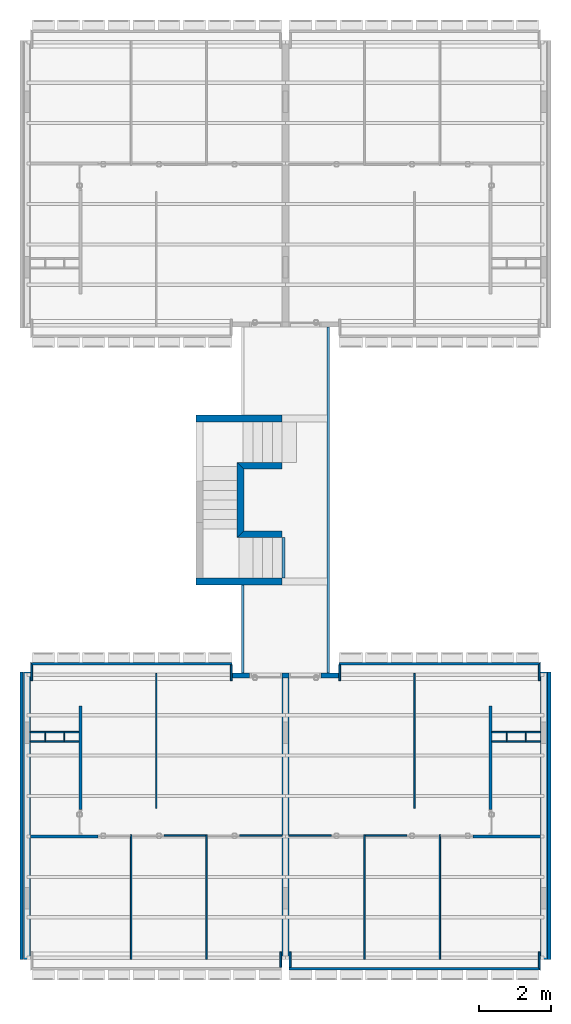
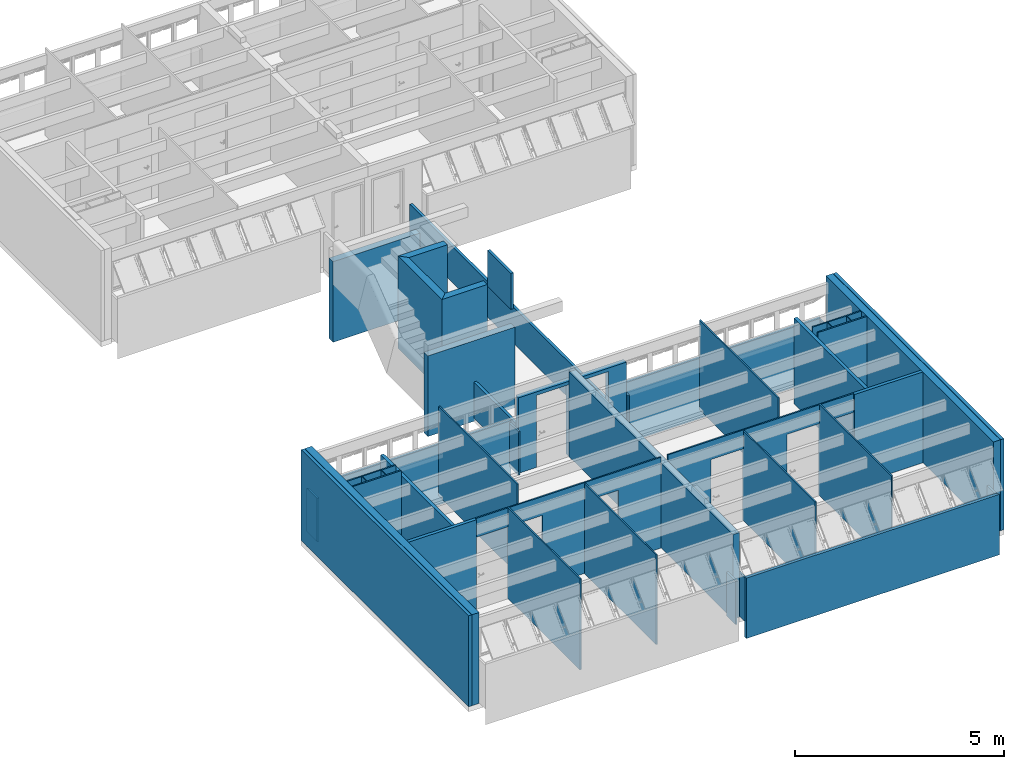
# One storey, part 2 of 22: 45 walls, 10 openings.
"""IFC2X3 building model written with IfcOpenShell, lengths in millimetres."""

from ifc_helpers import new_model, si_unit, direction, frame, frame_2d, origin_with_axes, origin_2d_with_axis, place, context, subcontext, project, spatial, polyline, rectangle, outline, extrude, material, layer, layer_set, layer_usage, type_object, element, save


model = new_model("IFC2X3")

# Units and contexts
model_context = context("Model", 3, precision=1e-05, world=origin_with_axes(), true_north=direction((0.0, 1.0)))
body_context = subcontext(model_context, "Body", "Model", "MODEL_VIEW")
ifc_project = project(units=[si_unit("LENGTHUNIT", "METRE", prefix="MILLI"), si_unit("AREAUNIT", "SQUARE_METRE"), si_unit("VOLUMEUNIT", "CUBIC_METRE"), si_unit("PLANEANGLEUNIT", "RADIAN"), si_unit("TIMEUNIT", "SECOND"), si_unit("MASSUNIT", "GRAM")], contexts=[model_context])

# Site, building, storey
site_placement = place(None, origin_with_axes())
site = spatial("IfcSite", under=ifc_project, at=site_placement, Name="Site", CompositionType="ELEMENT")
building_placement = place(site_placement, origin_with_axes())
building = spatial("IfcBuilding", under=site, at=building_placement, Name="Construção", CompositionType="COMPLEX")
storey_placement = place(building_placement, frame((0.0, 0.0, 2650.0), z_axis=(0.0, 0.0, 1.0), x_axis=(1.0, 0.0, 0.0)))
storey = spatial("IfcBuildingStorey", under=building, at=storey_placement, Name="Segundo Pavimento", CompositionType="COMPLEX", Elevation=2650.0)

# Walls
ifc_material_1 = material(Name="GENÉRICO - VEDAÇÃO EXTERNA")
ifc_layer_1 = layer(ifc_material_1, 190.0)
ifc_layer_set_1 = layer_set([ifc_layer_1], Name="GENÉRICO - VEDAÇÃO EXTERNA 190")
ifc_layer_usage_1 = layer_usage(ifc_layer_set_1, "AXIS2", "POSITIVE", 0.0)
wall_type_1 = type_object("IfcWallType", Name="GENÉRICO - VEDAÇÃO EXTERNA 190", PredefinedType="STANDARD", material=ifc_layer_set_1)
wall_1_placement = place(storey_placement, frame((7290.0, 15440.0, -150.0), z_axis=(0.0, 0.0, 1.0), x_axis=(-1.0, 0.0, 0.0)))
element("IfcWallStandardCase", 1, at=wall_1_placement, inside=storey, type_object=wall_type_1, material=ifc_layer_usage_1, Name="CIRC2-PAREDE-020", context=body_context, shape_type="SweptSolid", body=[
    extrude(rectangle(XDim=2400.0, YDim=190.0, at=frame_2d((0.0, 0.0), x_axis=(-1.0, 0.0))), frame((1200.0, 95.0, 0.0), z_axis=(0.0, 0.0, 1.0), x_axis=(1.0, 0.0, 0.0)), (0.0, 0.0, 1.0), 2350.0),
])
ifc_layer_usage_2 = layer_usage(ifc_layer_set_1, "AXIS2", "POSITIVE", 0.0)
wall_2_placement = place(storey_placement, frame((7480.0, 300.0, 0.0), z_axis=(0.0, 0.0, 1.0), x_axis=(0.0, 1.0, 0.0)))
element("IfcWallStandardCase", 2, at=wall_2_placement, inside=storey, type_object=wall_type_1, material=ifc_layer_usage_2, Name="CIRC2-PAREDE-026", context=body_context, shape_type="SweptSolid", body=[
    extrude(rectangle(XDim=7825.0, YDim=190.0, at=origin_2d_with_axis()), frame((3912.5, 95.0, 0.0), z_axis=(0.0, 0.0, 1.0), x_axis=(1.0, 0.0, 0.0)), (0.0, 0.0, 1.0), 2470.0),
])
ifc_layer_usage_3 = layer_usage(ifc_layer_set_1, "AXIS2", "POSITIVE", 0.0)
wall_3_placement = place(storey_placement, frame((7290.0, 10910.0, -150.0), z_axis=(0.0, 0.0, 1.0), x_axis=(-1.0, 0.0, 0.0)))
element("IfcWallStandardCase", 3, at=wall_3_placement, inside=storey, type_object=wall_type_1, material=ifc_layer_usage_3, Name="CIRC2-PAREDE-021", context=body_context, shape_type="SweptSolid", body=[
    extrude(rectangle(XDim=2400.0, YDim=190.0, at=frame_2d((0.0, 0.0), x_axis=(-1.0, 0.0))), frame((1200.0, 95.0, 0.0), z_axis=(0.0, 0.0, 1.0), x_axis=(1.0, 0.0, 0.0)), (0.0, 0.0, 1.0), 2350.0),
])
ifc_layer_usage_4 = layer_usage(ifc_layer_set_1, "AXIS2", "POSITIVE", 0.0)
wall_4_placement = place(storey_placement, frame((290.0, 300.0, 0.0), z_axis=(0.0, 0.0, 1.0), x_axis=(0.0, 1.0, 0.0)))
element("IfcWallStandardCase", 4, at=wall_4_placement, inside=storey, type_object=wall_type_1, material=ifc_layer_usage_4, Name="APTO5-PAREDE-013", context=body_context, shape_type="SweptSolid", body=[
    extrude(rectangle(XDim=8000.0, YDim=190.0, at=origin_2d_with_axis()), frame((4000.0, 95.0, 0.0), z_axis=(0.0, 0.0, 1.0), x_axis=(1.0, 0.0, 0.0)), (0.0, 0.0, 1.0), 2650.0),
])
ifc_layer_usage_5 = layer_usage(ifc_layer_set_1, "AXIS2", "POSITIVE", 0.0)
wall_5_placement = place(storey_placement, frame((14480.0, 8300.0, 0.0), z_axis=(0.0, 0.0, 1.0), x_axis=(0.0, -1.0, 0.0)))
element("IfcWallStandardCase", 5, at=wall_5_placement, inside=storey, type_object=wall_type_1, material=ifc_layer_usage_5, Name="APTO6-PAREDE-013", context=body_context, shape_type="SweptSolid", body=[
    extrude(rectangle(XDim=8000.0, YDim=190.0, at=frame_2d((0.0, 0.0), x_axis=(-1.0, 0.0))), frame((4000.0, 95.0, 0.0), z_axis=(0.0, 0.0, 1.0), x_axis=(1.0, 0.0, 0.0)), (0.0, 0.0, 1.0), 2650.0),
])
ifc_layer_2 = layer(ifc_material_1, 20.0)
ifc_layer_set_2 = layer_set([ifc_layer_2], Name="GENÉRICO - VEDAÇÃO EXTERNA 20")
ifc_layer_usage_6 = layer_usage(ifc_layer_set_2, "AXIS2", "POSITIVE", 0.0)
wall_type_2 = type_object("IfcWallType", Name="GENÉRICO - VEDAÇÃO EXTERNA 20", PredefinedType="STANDARD", material=ifc_layer_set_2)
wall_6_placement = place(storey_placement, frame((690.0, 6605.0, 0.0), z_axis=(0.0, 0.0, 1.0), x_axis=(0.0, -1.0, 0.0)))
element("IfcWallStandardCase", 6, at=wall_6_placement, inside=storey, type_object=wall_type_2, material=ifc_layer_usage_6, Name="APTO5-PAREDE-009", context=body_context, shape_type="SweptSolid", body=[
    extrude(rectangle(XDim=220.0, YDim=20.0, at=frame_2d((0.0, 0.0), x_axis=(-1.0, 0.0))), frame((110.0, 10.0, 0.0), z_axis=(0.0, 0.0, 1.0), x_axis=(1.0, 0.0, 0.0)), (0.0, 0.0, 1.0), 2650.0),
])
ifc_layer_usage_7 = layer_usage(ifc_layer_set_2, "AXIS2", "POSITIVE", 0.0)
wall_7_placement = place(storey_placement, frame((1240.0, 6385.0, 0.0), z_axis=(0.0, 0.0, 1.0), x_axis=(0.0, 1.0, 0.0)))
element("IfcWallStandardCase", 7, at=wall_7_placement, inside=storey, type_object=wall_type_2, material=ifc_layer_usage_7, Name="APTO5-PAREDE-008", context=body_context, shape_type="SweptSolid", body=[
    extrude(rectangle(XDim=220.0, YDim=20.0, at=origin_2d_with_axis()), frame((110.0, 10.0, 0.0), z_axis=(0.0, 0.0, 1.0), x_axis=(1.0, 0.0, 0.0)), (0.0, 0.0, 1.0), 2650.0),
])
ifc_layer_usage_8 = layer_usage(ifc_layer_set_2, "AXIS2", "POSITIVE", 0.0)
wall_8_placement = place(storey_placement, frame((14080.0, 6385.0, 0.0), z_axis=(0.0, 0.0, 1.0), x_axis=(0.0, 1.0, 0.0)))
element("IfcWallStandardCase", 8, at=wall_8_placement, inside=storey, type_object=wall_type_2, material=ifc_layer_usage_8, Name="APTO6-PAREDE-009", context=body_context, shape_type="SweptSolid", body=[
    extrude(rectangle(XDim=220.0, YDim=20.0, at=origin_2d_with_axis()), frame((110.0, 10.0, 0.0), z_axis=(0.0, 0.0, 1.0), x_axis=(1.0, 0.0, 0.0)), (0.0, 0.0, 1.0), 2650.0),
])
ifc_layer_usage_9 = layer_usage(ifc_layer_set_2, "AXIS2", "POSITIVE", 0.0)
wall_9_placement = place(storey_placement, frame((13530.0, 6605.0, 0.0), z_axis=(0.0, 0.0, 1.0), x_axis=(0.0, -1.0, 0.0)))
element("IfcWallStandardCase", 9, at=wall_9_placement, inside=storey, type_object=wall_type_2, material=ifc_layer_usage_9, Name="APTO6-PAREDE-008", context=body_context, shape_type="SweptSolid", body=[
    extrude(rectangle(XDim=220.0, YDim=20.0, at=frame_2d((0.0, 0.0), x_axis=(-1.0, 0.0))), frame((110.0, 10.0, 0.0), z_axis=(0.0, 0.0, 1.0), x_axis=(1.0, 0.0, 0.0)), (0.0, 0.0, 1.0), 2650.0),
])
ifc_layer_3 = layer(ifc_material_1, 75.0)
ifc_layer_set_3 = layer_set([ifc_layer_3], Name="GENÉRICO - VEDAÇÃO EXTERNA 75")
ifc_layer_usage_10 = layer_usage(ifc_layer_set_3, "AXIS2", "POSITIVE", 0.0)
wall_type_3 = type_object("IfcWallType", Name="GENÉRICO - VEDAÇÃO EXTERNA 75", PredefinedType="STANDARD", material=ifc_layer_set_3)
wall_10_placement = place(storey_placement, frame((7290.00006035, 12030.0, 2600.0), z_axis=(0.0, 0.0, 1.0), x_axis=(0.0, -1.0, 0.0)))
element("IfcWallStandardCase", 10, at=wall_10_placement, inside=storey, type_object=wall_type_3, material=ifc_layer_usage_10, Name="PAREDE-040", context=body_context, shape_type="SweptSolid", body=[
    extrude(rectangle(XDim=1120.0, YDim=75.0, at=frame_2d((0.0, 0.0), x_axis=(-1.0, 0.0))), frame((560.0, 37.5, 0.0), z_axis=(0.0, 0.0, 1.0), x_axis=(1.0, 0.0, 0.0)), (0.0, 0.0, 1.0), 1050.0),
])
ifc_layer_usage_11 = layer_usage(ifc_layer_set_3, "AXIS2", "POSITIVE", 0.0)
wall_11_placement = place(storey_placement, frame((8610.0, 8264.999998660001, -50.0), z_axis=(0.0, 0.0, 1.0), x_axis=(0.0, 1.0, 0.0)))
element("IfcWallStandardCase", 11, at=wall_11_placement, inside=storey, type_object=wall_type_3, material=ifc_layer_usage_11, Name="CIRC2-PAREDE-027", context=body_context, shape_type="SweptSolid", body=[
    extrude(rectangle(XDim=9630.00000134, YDim=75.0, at=origin_2d_with_axis()), frame((4815.000000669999, 37.5, 0.0), z_axis=(0.0, 0.0, 1.0), x_axis=(1.0, 0.0, 0.0)), (0.0, 0.0, 1.0), 1050.0),
])
ifc_layer_usage_12 = layer_usage(ifc_layer_set_3, "AXIS2", "POSITIVE", 0.0)
wall_12_placement = place(storey_placement, frame((6160.0, 10720.0, -50.0), z_axis=(0.0, 0.0, 1.0), x_axis=(0.0, -1.0, 0.0)))
element("IfcWallStandardCase", 12, at=wall_12_placement, inside=storey, type_object=wall_type_3, material=ifc_layer_usage_12, Name="CIRC2-PAREDE-025", context=body_context, shape_type="SweptSolid", body=[
    extrude(rectangle(XDim=2455.0, YDim=75.0, at=frame_2d((0.0, 0.0), x_axis=(-1.0, 0.0))), frame((1227.5, 37.5, 0.0), z_axis=(0.0, 0.0, 1.0), x_axis=(1.0, 0.0, 0.0)), (0.0, 0.0, 1.0), 1050.0),
])

# Wall, openings
ifc_layer_4 = layer(ifc_material_1, 40.0)
ifc_layer_set_4 = layer_set([ifc_layer_4], Name="GENÉRICO - VEDAÇÃO EXTERNA 40")
ifc_layer_usage_13 = layer_usage(ifc_layer_set_4, "AXIS2", "POSITIVE", 0.0)
wall_type_4 = type_object("IfcWallType", Name="GENÉRICO - VEDAÇÃO EXTERNA 40", PredefinedType="STANDARD", material=ifc_layer_set_4)
wall_13_placement = place(storey_placement, frame((7290.000000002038, 3765.000000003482, 0.0), z_axis=(0.0, 0.0, 1.0), x_axis=(-0.9999999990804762, 4.288412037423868e-05, 0.0)))
wall_13 = element("IfcWallStandardCase", 13, at=wall_13_placement, inside=storey, type_object=wall_type_4, material=ifc_layer_usage_13, Name="APTO5-PAREDE-006", context=body_context, shape_type="SweptSolid", body=[
    extrude(outline(polyline([(-2559.999787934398, 20.0), (2559.999359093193, 20.0), (2560.000216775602, -20.0), (-2559.999787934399, -20.0), (-2559.999787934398, 20.0)])), frame((2559.999787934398, 20.0, 0.0), z_axis=(0.0, 0.0, 1.0), x_axis=(1.0, 0.0, 0.0)), (0.0, 0.0, 1.0), 2650.0),
])
opening_1_placement = place(wall_13_placement, frame((4179.999999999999, 40.0, 0.0), z_axis=(0.0, 0.0, 1.0), x_axis=(-1.0, 0.0, 0.0)))
element("IfcOpeningElement", 14, at=opening_1_placement, cuts=wall_13, ObjectType="Opening", context=body_context, shape_type="SweptSolid", body=[
    extrude(outline(polyline([(-450.0, -1050.0), (-450.0, 1050.0), (450.0, 1050.0), (450.0, -1050.0), (-450.0, -1050.0)])), frame((450.0, 1.364242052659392e-12, 1050.000000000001), z_axis=(0.0, 1.0, 0.0), x_axis=(1.0, 0.0, 0.0)), (0.0, 0.0, 1.0), 120.0),
])
opening_2_placement = place(wall_13_placement, frame((5119.999147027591, 40.0, 0.0), z_axis=(0.0, 0.0, 1.0), x_axis=(-1.0, 0.0, 0.0)))
element("IfcOpeningElement", 15, at=opening_2_placement, cuts=wall_13, ObjectType="Opening", context=body_context, shape_type="SweptSolid", body=[
    extrude(outline(polyline([(450.0, 1050.0), (450.0, -1050.0), (-450.0, -1050.0), (-450.0, 1050.0), (450.0, 1050.0)])), frame((449.9991470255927, 0.0, 1050.0), z_axis=(0.0, 1.0, 0.0), x_axis=(1.0, 0.0, 0.0)), (0.0, 0.0, 1.0), 120.0),
])
opening_3_placement = place(wall_13_placement, frame((2080.0, 39.99999999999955, 0.0), z_axis=(0.0, 0.0, 1.0), x_axis=(-1.0, 0.0, 0.0)))
element("IfcOpeningElement", 16, at=opening_3_placement, cuts=wall_13, ObjectType="Opening", context=body_context, shape_type="SweptSolid", body=[
    extrude(outline(polyline([(-450.0, -1050.0), (-450.0, 1050.0), (450.0, 1050.0), (450.0, -1050.0), (-450.0, -1050.0)])), frame((450.0, 1.364242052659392e-12, 1050.000000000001), z_axis=(0.0, 1.0, 0.0), x_axis=(1.0, 0.0, 0.0)), (0.0, 0.0, 1.0), 120.0),
])

# Walls
ifc_layer_usage_14 = layer_usage(ifc_layer_set_4, "AXIS2", "POSITIVE", 0.0)
wall_14_placement = place(storey_placement, frame((3110.0, 300.0, 0.0), z_axis=(0.0, 0.0, 1.0), x_axis=(0.0, 1.0, 0.0)))
element("IfcWallStandardCase", 17, at=wall_14_placement, inside=storey, type_object=wall_type_4, material=ifc_layer_usage_14, Name="APTO5-PAREDE-007", context=body_context, shape_type="SweptSolid", body=[
    extrude(rectangle(XDim=3465.0, YDim=40.0, at=origin_2d_with_axis()), frame((1732.5, 20.0, 0.0), z_axis=(0.0, 0.0, 1.0), x_axis=(1.0, 0.0, 0.0)), (0.0, 0.0, 1.0), 2650.0),
])
ifc_layer_usage_15 = layer_usage(ifc_layer_set_4, "AXIS2", "POSITIVE", 0.0)
wall_15_placement = place(storey_placement, frame((3770.0, 8255.0, 0.0), z_axis=(0.0, 0.0, 1.0), x_axis=(0.0, -1.0, 0.0)))
element("IfcWallStandardCase", 18, at=wall_15_placement, inside=storey, type_object=wall_type_4, material=ifc_layer_usage_15, Name="APTO5-PAREDE-003", context=body_context, shape_type="SweptSolid", body=[
    extrude(rectangle(XDim=3750.0, YDim=40.0, at=frame_2d((0.0, 0.0), x_axis=(-1.0, 0.0))), frame((1875.0, 20.0, 0.0), z_axis=(0.0, 0.0, 1.0), x_axis=(1.0, 0.0, 0.0)), (0.0, 0.0, 1.0), 2620.0),
])
ifc_layer_usage_16 = layer_usage(ifc_layer_set_4, "AXIS2", "POSITIVE", 0.0)
wall_16_placement = place(storey_placement, frame((1640.0, 6385.0, 0.0), z_axis=(0.0, 0.0, 1.0), x_axis=(-1.0, 0.0, 0.0)))
element("IfcWallStandardCase", 19, at=wall_16_placement, inside=storey, type_object=wall_type_4, material=ifc_layer_usage_16, Name="APTO5-PAREDE-011", context=body_context, shape_type="SweptSolid", body=[
    extrude(rectangle(XDim=1350.0, YDim=40.0, at=frame_2d((0.0, 0.0), x_axis=(-1.0, 0.0))), frame((675.0, 20.0, 0.0), z_axis=(0.0, 0.0, 1.0), x_axis=(1.0, 0.0, 0.0)), (0.0, 0.0, 1.0), 2650.0),
])
ifc_layer_usage_17 = layer_usage(ifc_layer_set_4, "AXIS2", "POSITIVE", 0.0)
wall_17_placement = place(storey_placement, frame((5210.0, 300.0, 0.0), z_axis=(0.0, 0.0, 1.0), x_axis=(0.0, 1.0, 0.0)))
element("IfcWallStandardCase", 20, at=wall_17_placement, inside=storey, type_object=wall_type_4, material=ifc_layer_usage_17, Name="APTO5-PAREDE-005", context=body_context, shape_type="SweptSolid", body=[
    extrude(rectangle(XDim=3465.0, YDim=40.0, at=origin_2d_with_axis()), frame((1732.5, 20.0, 0.0), z_axis=(0.0, 0.0, 1.0), x_axis=(1.0, 0.0, 0.0)), (0.0, 0.0, 1.0), 2620.0),
])
ifc_layer_usage_18 = layer_usage(ifc_layer_set_4, "AXIS2", "POSITIVE", 0.0)
wall_18_placement = place(storey_placement, frame((290.0, 6605.0, 0.0), z_axis=(0.0, 0.0, 1.0), x_axis=(1.0, 0.0, 0.0)))
element("IfcWallStandardCase", 21, at=wall_18_placement, inside=storey, type_object=wall_type_4, material=ifc_layer_usage_18, Name="APTO5-PAREDE-010", context=body_context, shape_type="SweptSolid", body=[
    extrude(rectangle(XDim=1350.0, YDim=40.0, at=origin_2d_with_axis()), frame((675.0, 20.0, 0.0), z_axis=(0.0, 0.0, 1.0), x_axis=(1.0, 0.0, 0.0)), (0.0, 0.0, 1.0), 2650.0),
])
ifc_layer_usage_19 = layer_usage(ifc_layer_set_4, "AXIS2", "POSITIVE", 0.0)
wall_19_placement = place(storey_placement, frame((11000.0, 4505.0, 0.0), z_axis=(0.0, 0.0, 1.0), x_axis=(0.0, 1.0, 0.0)))
element("IfcWallStandardCase", 22, at=wall_19_placement, inside=storey, type_object=wall_type_4, material=ifc_layer_usage_19, Name="APTO6-PAREDE-003", context=body_context, shape_type="SweptSolid", body=[
    extrude(rectangle(XDim=3750.0, YDim=40.0, at=origin_2d_with_axis()), frame((1875.0, 20.0, 0.0), z_axis=(0.0, 0.0, 1.0), x_axis=(1.0, 0.0, 0.0)), (0.0, 0.0, 1.0), 2620.0),
])
ifc_layer_usage_20 = layer_usage(ifc_layer_set_4, "AXIS2", "POSITIVE", 0.0)
wall_20_placement = place(storey_placement, frame((14480.0, 6385.0, 0.0), z_axis=(0.0, 0.0, 1.0), x_axis=(-1.0, 0.0, 0.0)))
element("IfcWallStandardCase", 23, at=wall_20_placement, inside=storey, type_object=wall_type_4, material=ifc_layer_usage_20, Name="APTO6-PAREDE-011", context=body_context, shape_type="SweptSolid", body=[
    extrude(rectangle(XDim=1350.0, YDim=40.0, at=frame_2d((0.0, 0.0), x_axis=(-1.0, 0.0))), frame((675.0, 20.0, 0.0), z_axis=(0.0, 0.0, 1.0), x_axis=(1.0, 0.0, 0.0)), (0.0, 0.0, 1.0), 2650.0),
])
ifc_layer_usage_21 = layer_usage(ifc_layer_set_4, "AXIS2", "POSITIVE", 0.0)
wall_21_placement = place(storey_placement, frame((9560.0, 3765.0, 0.0), z_axis=(0.0, 0.0, 1.0), x_axis=(0.0, -1.0, 0.0)))
element("IfcWallStandardCase", 24, at=wall_21_placement, inside=storey, type_object=wall_type_4, material=ifc_layer_usage_21, Name="APTO6-PAREDE-005", context=body_context, shape_type="SweptSolid", body=[
    extrude(rectangle(XDim=3465.0, YDim=40.0, at=frame_2d((0.0, 0.0), x_axis=(-1.0, 0.0))), frame((1732.5, 20.0, 0.0), z_axis=(0.0, 0.0, 1.0), x_axis=(1.0, 0.0, 0.0)), (0.0, 0.0, 1.0), 2620.0),
])
ifc_layer_usage_22 = layer_usage(ifc_layer_set_4, "AXIS2", "POSITIVE", 0.0)
wall_22_placement = place(storey_placement, frame((13130.0, 6605.0, 0.0), z_axis=(0.0, 0.0, 1.0), x_axis=(1.0, 0.0, 0.0)))
element("IfcWallStandardCase", 25, at=wall_22_placement, inside=storey, type_object=wall_type_4, material=ifc_layer_usage_22, Name="APTO6-PAREDE-010", context=body_context, shape_type="SweptSolid", body=[
    extrude(rectangle(XDim=1350.0, YDim=40.0, at=origin_2d_with_axis()), frame((675.0, 20.0, 0.0), z_axis=(0.0, 0.0, 1.0), x_axis=(1.0, 0.0, 0.0)), (0.0, 0.0, 1.0), 2650.0),
])
ifc_layer_usage_23 = layer_usage(ifc_layer_set_4, "AXIS2", "POSITIVE", 0.0)
wall_23_placement = place(storey_placement, frame((11660.0, 3765.0, 0.0), z_axis=(0.0, 0.0, 1.0), x_axis=(0.0, -1.0, 0.0)))
element("IfcWallStandardCase", 26, at=wall_23_placement, inside=storey, type_object=wall_type_4, material=ifc_layer_usage_23, Name="APTO6-PAREDE-007", context=body_context, shape_type="SweptSolid", body=[
    extrude(rectangle(XDim=3465.0, YDim=40.0, at=frame_2d((0.0, 0.0), x_axis=(-1.0, 0.0))), frame((1732.5, 20.0, 0.0), z_axis=(0.0, 0.0, 1.0), x_axis=(1.0, 0.0, 0.0)), (0.0, 0.0, 1.0), 2650.0),
])

# Wall, openings
ifc_layer_usage_24 = layer_usage(ifc_layer_set_4, "AXIS2", "POSITIVE", 0.0)
wall_24_placement = place(storey_placement, frame((12600.0, 3765.2195667, 0.0), z_axis=(0.0, 0.0, 1.0), x_axis=(-0.9999999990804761, -4.288412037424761e-05, 0.0)))
wall_24 = element("IfcWallStandardCase", 27, at=wall_24_placement, inside=storey, type_object=wall_type_4, material=ifc_layer_usage_24, Name="APTO6-PAREDE-006", context=body_context, shape_type="SweptSolid", body=[
    extrude(outline(polyline([(-2559.999787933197, 20.0), (2560.001074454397, 19.99999999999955), (2559.999359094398, -20.0), (-2560.000645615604, -20.0), (-2559.999787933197, 20.0)])), frame((2560.000645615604, 20.0, 0.0), z_axis=(0.0, 0.0, 1.0), x_axis=(1.0, 0.0, 0.0)), (0.0, 0.0, 1.0), 2650.0),
])
opening_4_placement = place(wall_24_placement, frame((1840.000004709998, 40.0, 0.0), z_axis=(0.0, 0.0, 1.0), x_axis=(-1.0, 0.0, 0.0)))
element("IfcOpeningElement", 28, at=opening_4_placement, cuts=wall_24, ObjectType="Opening", context=body_context, shape_type="SweptSolid", body=[
    extrude(outline(polyline([(450.0, 1050.0), (450.0, -1050.0), (-450.0, -1050.0), (-450.0, 1050.0), (450.0, 1050.0)])), frame((450.0, 1.364242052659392e-12, 1050.000000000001), z_axis=(0.0, 1.0, 0.0), x_axis=(1.0, 0.0, 0.0)), (0.0, 0.0, 1.0), 120.0),
])
opening_5_placement = place(wall_24_placement, frame((900.0000047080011, 40.0, 0.0), z_axis=(0.0, 0.0, 1.0), x_axis=(-1.0, 0.0, 0.0)))
element("IfcOpeningElement", 29, at=opening_5_placement, cuts=wall_24, ObjectType="Opening", context=body_context, shape_type="SweptSolid", body=[
    extrude(outline(polyline([(-450.0, -1050.0), (-450.0, 1050.0), (450.0, 1050.0), (450.0, -1050.0), (-450.0, -1050.0)])), frame((450.0, 1.364242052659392e-12, 1050.000000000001), z_axis=(0.0, 1.0, 0.0), x_axis=(1.0, 0.0, 0.0)), (0.0, 0.0, 1.0), 120.0),
])
opening_6_placement = place(wall_24_placement, frame((3940.00000471, 40.0, 0.0), z_axis=(0.0, 0.0, 1.0), x_axis=(-1.0, 0.0, 0.0)))
element("IfcOpeningElement", 30, at=opening_6_placement, cuts=wall_24, ObjectType="Opening", context=body_context, shape_type="SweptSolid", body=[
    extrude(outline(polyline([(450.0, 1050.0), (450.0, -1050.0), (-450.0, -1050.0), (-450.0, 1050.0), (450.0, 1050.0)])), frame((450.0, 1.364242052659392e-12, 1050.000000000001), z_axis=(0.0, 1.0, 0.0), x_axis=(1.0, 0.0, 0.0)), (0.0, 0.0, 1.0), 120.0),
])

# Walls
ifc_material_2 = material(Name="Concreto Armado Moldado in Loco - Estrutural")
ifc_layer_5 = layer(ifc_material_2, 190.0)
ifc_layer_set_5 = layer_set([ifc_layer_5], Name="Concreto Armado Moldado in Loco - Estrutural 190")
ifc_layer_usage_25 = layer_usage(ifc_layer_set_5, "AXIS2", "POSITIVE", 0.0)
wall_type_5 = type_object("IfcWallType", Name="Concreto Armado Moldado in Loco - Estrutural 190", PredefinedType="STANDARD", material=ifc_layer_set_5)
wall_25_placement = place(storey_placement, frame((6230.0, 12030.0, -50.0), z_axis=(0.0, 0.0, 1.0), x_axis=(0.0, 1.0, 0.0)))
element("IfcWallStandardCase", 31, at=wall_25_placement, inside=storey, type_object=wall_type_5, material=ifc_layer_usage_25, Name="CIRC2-PAREDE-022", context=body_context, shape_type="SweptSolid", body=[
    extrude(outline(polyline([(1050.0, 95.0), (860.0, -95.0), (-860.0, -95.0), (-1050.0, 95.0), (1050.0, 95.0)])), frame((1050.0, 95.0, 0.0), z_axis=(0.0, 0.0, 1.0), x_axis=(1.0, 0.0, 0.0)), (0.0, 0.0, 1.0), 2700.0),
])
ifc_layer_usage_26 = layer_usage(ifc_layer_set_5, "AXIS2", "POSITIVE", 0.0)
wall_26_placement = place(storey_placement, frame((7290.0, 12220.0, -50.0), z_axis=(0.0, 0.0, 1.0), x_axis=(-1.0, 0.0, 0.0)))
element("IfcWallStandardCase", 32, at=wall_26_placement, inside=storey, type_object=wall_type_5, material=ifc_layer_usage_26, Name="CIRC2-PAREDE-023", context=body_context, shape_type="SweptSolid", body=[
    extrude(outline(polyline([(672.5, 95.0), (482.5, -95.0), (-577.5, -95.0), (-577.5, 95.0), (672.5, 95.0)])), frame((577.5, 95.0, 0.0), z_axis=(0.0, 0.0, 1.0), x_axis=(1.0, 0.0, 0.0)), (0.0, 0.0, 1.0), 2700.0),
])
ifc_layer_usage_27 = layer_usage(ifc_layer_set_5, "AXIS2", "POSITIVE", 0.0)
wall_27_placement = place(storey_placement, frame((6040.0, 13940.0, -50.0), z_axis=(0.0, 0.0, 1.0), x_axis=(1.0, 0.0, 0.0)))
element("IfcWallStandardCase", 33, at=wall_27_placement, inside=storey, type_object=wall_type_5, material=ifc_layer_usage_27, Name="CIRC2-PAREDE-024", context=body_context, shape_type="SweptSolid", body=[
    extrude(outline(polyline([(577.5, 95.0), (577.5, -95.0), (-482.5, -95.0), (-672.5, 95.0), (577.5, 95.0)])), frame((672.5, 95.0, 0.0), z_axis=(0.0, 0.0, 1.0), x_axis=(1.0, 0.0, 0.0)), (0.0, 0.0, 1.0), 2700.0),
])
ifc_layer_6 = layer(ifc_material_2, 80.0)
ifc_layer_set_6 = layer_set([ifc_layer_6], Name="Concreto Armado Moldado in Loco - Estrutural 80")
ifc_layer_usage_28 = layer_usage(ifc_layer_set_6, "AXIS2", "POSITIVE", 0.0)
wall_type_6 = type_object("IfcWallType", Name="Concreto Armado Moldado in Loco - Estrutural 80", PredefinedType="STANDARD", material=ifc_layer_set_6)
wall_28_placement = place(storey_placement, frame((5900.0, 8564.99999866, -450.0), z_axis=(0.0, 0.0, 1.0), x_axis=(-1.0, 0.0, 0.0)))
element("IfcWallStandardCase", 34, at=wall_28_placement, inside=storey, type_object=wall_type_6, material=ifc_layer_usage_28, Name="APTO5-PAREDE-017", context=body_context, shape_type="SweptSolid", body=[
    extrude(outline(polyline([(2762.5, 40.0), (2812.5, -40.0), (-2787.5, -40.0), (-2787.5, 40.0), (2762.5, 40.0)])), frame((2787.5, 40.0, 0.0), z_axis=(0.0, 0.0, 1.0), x_axis=(1.0, 0.0, 0.0)), (0.0, 0.0, 1.0), 1765.0),
])
ifc_layer_usage_29 = layer_usage(ifc_layer_set_6, "AXIS2", "POSITIVE", 0.0)
wall_29_placement = place(storey_placement, frame((14470.0, 8564.99999866, -450.0), z_axis=(0.0, 0.0, 1.0), x_axis=(-1.0, 0.0, 0.0)))
element("IfcWallStandardCase", 35, at=wall_29_placement, inside=storey, type_object=wall_type_6, material=ifc_layer_usage_29, Name="APTO6-PAREDE-017", context=body_context, shape_type="SweptSolid", body=[
    extrude(outline(polyline([(-2812.5, -40.0), (-2762.5, 40.0), (2787.5, 40.0), (2787.5, -40.0), (-2812.5, -40.0)])), frame((2812.5, 40.0, 0.0), z_axis=(0.0, 0.0, 1.0), x_axis=(1.0, 0.0, 0.0)), (0.0, 0.0, 1.0), 1765.0),
])
ifc_layer_usage_30 = layer_usage(ifc_layer_set_6, "AXIS2", "POSITIVE", 0.0)
wall_30_placement = place(storey_placement, frame((7490.0, 0.0, -450.0), z_axis=(0.0, 0.0, 1.0), x_axis=(1.0, 0.0, 0.0)))
element("IfcWallStandardCase", 36, at=wall_30_placement, inside=storey, type_object=wall_type_6, material=ifc_layer_usage_30, Name="APTO6-PAREDE-015", context=body_context, shape_type="SweptSolid", body=[
    extrude(outline(polyline([(3452.5, 40.0), (3502.5, -40.0), (-3477.5, -40.0), (-3477.5, 40.0), (3452.5, 40.0)])), frame((3477.5, 40.0, 0.0), z_axis=(0.0, 0.0, 1.0), x_axis=(1.0, 0.0, 0.0)), (0.0, 0.0, 1.0), 1765.0),
])
ifc_layer_7 = layer(ifc_material_1, 90.0)
ifc_layer_set_7 = layer_set([ifc_layer_7], Name="GENÉRICO - VEDAÇÃO EXTERNA 90")
ifc_layer_usage_31 = layer_usage(ifc_layer_set_7, "AXIS2", "POSITIVE", 0.0)
wall_type_7 = type_object("IfcWallType", Name="GENÉRICO - VEDAÇÃO EXTERNA 90", PredefinedType="STANDARD", material=ifc_layer_set_7)
wall_31_placement = place(storey_placement, frame((2170.0, 3765.2195667, 0.0), z_axis=(0.0, 0.0, 1.0), x_axis=(-1.0, 0.0, 0.0)))
element("IfcWallStandardCase", 37, at=wall_31_placement, inside=storey, type_object=wall_type_7, material=ifc_layer_usage_31, Name="APTO5-PAREDE-019", context=body_context, shape_type="SweptSolid", body=[
    extrude(outline(polyline([(939.9995175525, 45.0), (939.9995175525, -45.0), (-940.0004824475, -45.0), (-939.9985526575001, 45.0), (939.9995175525, 45.0)])), frame((940.0004824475, 45.0, 0.0), z_axis=(0.0, 0.0, 1.0), x_axis=(1.0, 0.0, 0.0)), (0.0, 0.0, 1.0), 2650.0),
])
ifc_layer_usage_32 = layer_usage(ifc_layer_set_7, "AXIS2", "POSITIVE", 0.0)
wall_32_placement = place(storey_placement, frame((90.0, 300.0, 0.0), z_axis=(0.0, 0.0, 1.0), x_axis=(0.0, 1.0, 0.0)))
element("IfcWallStandardCase", 38, at=wall_32_placement, inside=storey, type_object=wall_type_7, material=ifc_layer_usage_32, Name="APTO5-PAREDE-014", context=body_context, shape_type="SweptSolid", body=[
    extrude(rectangle(XDim=8000.0, YDim=90.0, at=origin_2d_with_axis()), frame((4000.0, 45.0, 0.0), z_axis=(0.0, 0.0, 1.0), x_axis=(1.0, 0.0, 0.0)), (0.0, 0.0, 1.0), 2650.0),
])

# Wall, opening
ifc_layer_usage_33 = layer_usage(ifc_layer_set_7, "AXIS2", "POSITIVE", 0.0)
wall_33_placement = place(storey_placement, frame((1730.0, 3765.2195667, 0.0), z_axis=(0.0, 0.0, 1.0), x_axis=(0.0, 1.0, 0.0)))
wall_33 = element("IfcWallStandardCase", 39, at=wall_33_placement, inside=storey, type_object=wall_type_7, material=ifc_layer_usage_33, Name="APTO5-PAREDE-012", context=body_context, shape_type="SweptSolid", body=[
    extrude(rectangle(XDim=3580.0, YDim=90.0, at=origin_2d_with_axis()), frame((1790.0, 45.0, 0.0), z_axis=(0.0, 0.0, 1.0), x_axis=(1.0, 0.0, 0.0)), (0.0, 0.0, 1.0), 2500.0),
])
opening_7_placement = place(wall_33_placement, frame((710.0, 90.0, 0.0), z_axis=(0.0, 0.0, 1.0), x_axis=(-1.0, 0.0, 0.0)))
element("IfcOpeningElement", 40, at=opening_7_placement, cuts=wall_33, ObjectType="Opening", context=body_context, shape_type="SweptSolid", body=[
    extrude(outline(polyline([(355.0, 1050.0), (355.0, -1050.0), (-355.0, -1050.0), (-355.0, 1050.0), (355.0, 1050.0)])), frame((355.0, 0.0, 1050.0), z_axis=(0.0, 1.0, 0.0), x_axis=(1.0, 0.0, 0.0)), (0.0, 0.0, 1.0), 270.0),
])

# Walls
ifc_layer_usage_34 = layer_usage(ifc_layer_set_7, "AXIS2", "POSITIVE", 0.0)
wall_34_placement = place(storey_placement, frame((14480.0, 3765.2195667, 0.0), z_axis=(0.0, 0.0, 1.0), x_axis=(-1.0, 0.0, 0.0)))
element("IfcWallStandardCase", 41, at=wall_34_placement, inside=storey, type_object=wall_type_7, material=ifc_layer_usage_34, Name="APTO6-PAREDE-019", context=body_context, shape_type="SweptSolid", body=[
    extrude(outline(polyline([(-939.9995175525, -45.0), (-939.9995175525, 45.0), (939.9985526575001, 45.0), (940.0004824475, -45.0), (-939.9995175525, -45.0)])), frame((939.9995175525, 45.0, 0.0), z_axis=(0.0, 0.0, 1.0), x_axis=(1.0, 0.0, 0.0)), (0.0, 0.0, 1.0), 2650.0),
])
ifc_layer_usage_35 = layer_usage(ifc_layer_set_7, "AXIS2", "POSITIVE", 0.0)
wall_35_placement = place(storey_placement, frame((14680.0, 8300.0, 0.0), z_axis=(0.0, 0.0, 1.0), x_axis=(0.0, -1.0, 0.0)))
element("IfcWallStandardCase", 42, at=wall_35_placement, inside=storey, type_object=wall_type_7, material=ifc_layer_usage_35, Name="APTO6-PAREDE-014", context=body_context, shape_type="SweptSolid", body=[
    extrude(rectangle(XDim=8000.0, YDim=90.0, at=frame_2d((0.0, 0.0), x_axis=(-1.0, 0.0))), frame((4000.0, 45.0, 0.0), z_axis=(0.0, 0.0, 1.0), x_axis=(1.0, 0.0, 0.0)), (0.0, 0.0, 1.0), 2650.0),
])

# Wall, opening
ifc_layer_usage_36 = layer_usage(ifc_layer_set_7, "AXIS2", "POSITIVE", 0.0)
wall_36_placement = place(storey_placement, frame((13040.0, 7345.2195667, 0.0), z_axis=(0.0, 0.0, 1.0), x_axis=(0.0, -1.0, 0.0)))
wall_36 = element("IfcWallStandardCase", 43, at=wall_36_placement, inside=storey, type_object=wall_type_7, material=ifc_layer_usage_36, Name="APTO6-PAREDE-012", context=body_context, shape_type="SweptSolid", body=[
    extrude(rectangle(XDim=3580.0, YDim=90.0, at=frame_2d((0.0, 0.0), x_axis=(-1.0, 0.0))), frame((1790.0, 45.0, 0.0), z_axis=(0.0, 0.0, 1.0), x_axis=(1.0, 0.0, 0.0)), (0.0, 0.0, 1.0), 2500.0),
])
opening_8_placement = place(wall_36_placement, frame((3580.0, 90.0, 0.0), z_axis=(0.0, 0.0, 1.0), x_axis=(-1.0, 0.0, 0.0)))
element("IfcOpeningElement", 44, at=opening_8_placement, cuts=wall_36, ObjectType="Opening", context=body_context, shape_type="SweptSolid", body=[
    extrude(outline(polyline([(-355.0, -1050.0), (-355.0, 1050.0), (355.0, 1050.0), (355.0, -1050.0), (-355.0, -1050.0)])), frame((355.0, 0.0, 1050.0), z_axis=(0.0, 1.0, 0.0), x_axis=(1.0, 0.0, 0.0)), (0.0, 0.0, 1.0), 270.0),
])

# Walls
ifc_layer_8 = layer(ifc_material_2, 50.0)
ifc_layer_set_8 = layer_set([ifc_layer_8], Name="Concreto Armado Moldado in Loco - Estrutural 50")
ifc_layer_usage_37 = layer_usage(ifc_layer_set_8, "AXIS2", "POSITIVE", 0.0)
wall_type_8 = type_object("IfcWallType", Name="Concreto Armado Moldado in Loco - Estrutural 50", PredefinedType="STANDARD", material=ifc_layer_set_8)
wall_37_placement = place(storey_placement, frame((5900.0, 8054.99999866, 0.0), z_axis=(0.0, 0.0, 1.0), x_axis=(0.0, 1.0, 0.0)))
element("IfcWallStandardCase", 45, at=wall_37_placement, inside=storey, type_object=wall_type_8, material=ifc_layer_usage_37, Name="APTO5-PAREDE-016", context=body_context, shape_type="SweptSolid", body=[
    extrude(rectangle(XDim=435.0, YDim=50.0, at=origin_2d_with_axis()), frame((217.5, 25.0, 0.0), z_axis=(0.0, 0.0, 1.0), x_axis=(1.0, 0.0, 0.0)), (0.0, 0.0, 1.0), 1270.0),
])
ifc_layer_usage_38 = layer_usage(ifc_layer_set_8, "AXIS2", "POSITIVE", 0.0)
wall_38_placement = place(storey_placement, frame((350.0, 8054.99999866, 0.0), z_axis=(0.0, 0.0, 1.0), x_axis=(0.0, 1.0, 0.0)))
element("IfcWallStandardCase", 46, at=wall_38_placement, inside=storey, type_object=wall_type_8, material=ifc_layer_usage_38, Name="APTO5-PAREDE-018", context=body_context, shape_type="SweptSolid", body=[
    extrude(outline(polyline([(-235.0, -25.0), (-235.0, 25.0), (275.0, 25.0), (195.0, -25.0), (-235.0, -25.0)])), frame((235.0, 25.0, 0.0), z_axis=(0.0, 0.0, 1.0), x_axis=(1.0, 0.0, 0.0)), (0.0, 0.0, 1.0), 1270.0),
])
ifc_layer_usage_39 = layer_usage(ifc_layer_set_8, "AXIS2", "POSITIVE", 0.0)
wall_39_placement = place(storey_placement, frame((7280.0, 75.0, 0.0), z_axis=(0.0, 0.0, 1.0), x_axis=(0.0, 1.0, 0.0)))
element("IfcWallStandardCase", 47, at=wall_39_placement, inside=storey, type_object=wall_type_8, material=ifc_layer_usage_39, Name="APTO5-PAREDE-001", context=body_context, shape_type="SweptSolid", body=[
    extrude(rectangle(XDim=435.0, YDim=50.0, at=origin_2d_with_axis()), frame((217.5, 25.0, 0.0), z_axis=(0.0, 0.0, 1.0), x_axis=(1.0, 0.0, 0.0)), (0.0, 0.0, 1.0), 1270.0),
])
ifc_layer_usage_40 = layer_usage(ifc_layer_set_8, "AXIS2", "POSITIVE", 0.0)
wall_40_placement = place(storey_placement, frame((8870.0, 8489.99999866, 0.0), z_axis=(0.0, 0.0, 1.0), x_axis=(0.0, -1.0, 0.0)))
element("IfcWallStandardCase", 48, at=wall_40_placement, inside=storey, type_object=wall_type_8, material=ifc_layer_usage_40, Name="APTO6-PAREDE-016", context=body_context, shape_type="SweptSolid", body=[
    extrude(rectangle(XDim=435.0, YDim=50.0, at=frame_2d((0.0, 0.0), x_axis=(-1.0, 0.0))), frame((217.5, 25.0, 0.0), z_axis=(0.0, 0.0, 1.0), x_axis=(1.0, 0.0, 0.0)), (0.0, 0.0, 1.0), 1270.0),
])
ifc_layer_usage_41 = layer_usage(ifc_layer_set_8, "AXIS2", "POSITIVE", 0.0)
wall_41_placement = place(storey_placement, frame((14420.0, 8564.99999866, 0.0), z_axis=(0.0, 0.0, 1.0), x_axis=(0.0, -1.0, 0.0)))
element("IfcWallStandardCase", 49, at=wall_41_placement, inside=storey, type_object=wall_type_8, material=ifc_layer_usage_41, Name="APTO6-PAREDE-018", context=body_context, shape_type="SweptSolid", body=[
    extrude(outline(polyline([(235.0, 25.0), (235.0, -25.0), (-195.0, -25.0), (-275.0, 25.0), (235.0, 25.0)])), frame((275.0, 25.0, 0.0), z_axis=(0.0, 0.0, 1.0), x_axis=(1.0, 0.0, 0.0)), (0.0, 0.0, 1.0), 1270.0),
])
ifc_layer_usage_42 = layer_usage(ifc_layer_set_8, "AXIS2", "POSITIVE", 0.0)
wall_42_placement = place(storey_placement, frame((14420.0, 510.0, 0.0), z_axis=(0.0, 0.0, 1.0), x_axis=(0.0, -1.0, 0.0)))
element("IfcWallStandardCase", 50, at=wall_42_placement, inside=storey, type_object=wall_type_8, material=ifc_layer_usage_42, Name="APTO6-PAREDE-002", context=body_context, shape_type="SweptSolid", body=[
    extrude(outline(polyline([(-235.0, -25.0), (-235.0, 25.0), (275.0, 25.0), (195.0, -25.0), (-235.0, -25.0)])), frame((235.0, 25.0, 0.0), z_axis=(0.0, 0.0, 1.0), x_axis=(1.0, 0.0, 0.0)), (0.0, 0.0, 1.0), 1270.0),
])
ifc_layer_usage_43 = layer_usage(ifc_layer_set_8, "AXIS2", "POSITIVE", 0.0)
wall_43_placement = place(storey_placement, frame((7490.0, 510.0, 0.0), z_axis=(0.0, 0.0, 1.0), x_axis=(0.0, -1.0, 0.0)))
element("IfcWallStandardCase", 51, at=wall_43_placement, inside=storey, type_object=wall_type_8, material=ifc_layer_usage_43, Name="APTO6-PAREDE-001", context=body_context, shape_type="SweptSolid", body=[
    extrude(rectangle(XDim=435.0, YDim=50.0, at=frame_2d((0.0, 0.0), x_axis=(-1.0, 0.0))), frame((217.5, 25.0, 0.0), z_axis=(0.0, 0.0, 1.0), x_axis=(1.0, 0.0, 0.0)), (0.0, 0.0, 1.0), 1270.0),
])

# Wall, opening
ifc_layer_9 = layer(ifc_material_1, 140.0)
ifc_layer_set_9 = layer_set([ifc_layer_9], Name="GENÉRICO - VEDAÇÃO EXTERNA 140")
ifc_layer_usage_44 = layer_usage(ifc_layer_set_9, "AXIS2", "POSITIVE", 0.0)
wall_type_9 = type_object("IfcWallType", Name="GENÉRICO - VEDAÇÃO EXTERNA 140", PredefinedType="STANDARD", material=ifc_layer_set_9)
wall_44_placement = place(storey_placement, frame((5900.0, 8125.0, 0.0), z_axis=(0.0, 0.0, 1.0), x_axis=(1.0, 0.0, 0.0)))
wall_44 = element("IfcWallStandardCase", 52, at=wall_44_placement, inside=storey, type_object=wall_type_9, material=ifc_layer_usage_44, Name="APTO5-PAREDE-004", context=body_context, shape_type="SweptSolid", body=[
    extrude(rectangle(XDim=1580.0, YDim=140.0, at=origin_2d_with_axis()), frame((790.0, 70.0, 0.0), z_axis=(0.0, 0.0, 1.0), x_axis=(1.0, 0.0, 0.0)), (0.0, 0.0, 1.0), 2200.0),
])
opening_9_placement = place(wall_44_placement, frame((490.0, 0.0, 0.0), z_axis=(0.0, 0.0, 1.0), x_axis=(1.0, 0.0, 0.0)))
element("IfcOpeningElement", 53, at=opening_9_placement, cuts=wall_44, ObjectType="Opening", context=body_context, shape_type="SweptSolid", body=[
    extrude(outline(polyline([(450.0, 1050.0), (450.0, -1050.0), (-450.0, -1050.0), (-450.0, 1050.0), (450.0, 1050.0)])), frame((450.0, -140.0, 1050.0), z_axis=(0.0, 1.0, 0.0), x_axis=(1.0, 0.0, 0.0)), (0.0, 0.0, 1.0), 420.0),
])

ifc_layer_usage_45 = layer_usage(ifc_layer_set_9, "AXIS2", "POSITIVE", 0.0)
wall_45_placement = place(storey_placement, frame((7290.0, 8125.0, 0.0), z_axis=(0.0, 0.0, 1.0), x_axis=(1.0, 0.0, 0.0)))
wall_45 = element("IfcWallStandardCase", 54, at=wall_45_placement, inside=storey, type_object=wall_type_9, material=ifc_layer_usage_45, Name="APTO6-PAREDE-004", context=body_context, shape_type="SweptSolid", body=[
    extrude(rectangle(XDim=1580.0, YDim=140.0, at=origin_2d_with_axis()), frame((790.0, 70.0, 0.0), z_axis=(0.0, 0.0, 1.0), x_axis=(1.0, 0.0, 0.0)), (0.0, 0.0, 1.0), 2200.0),
])
opening_10_placement = place(wall_45_placement, frame((190.0, 0.0, 0.0), z_axis=(0.0, 0.0, 1.0), x_axis=(1.0, 0.0, 0.0)))
element("IfcOpeningElement", 55, at=opening_10_placement, cuts=wall_45, ObjectType="Opening", context=body_context, shape_type="SweptSolid", body=[
    extrude(outline(polyline([(-450.0, -1050.0), (-450.0, 1050.0), (450.0, 1050.0), (450.0, -1050.0), (-450.0, -1050.0)])), frame((450.0, -140.0, 1050.0), z_axis=(0.0, 1.0, 0.0), x_axis=(1.0, 0.0, 0.0)), (0.0, 0.0, 1.0), 420.0),
])

save(model, "model.ifc")
